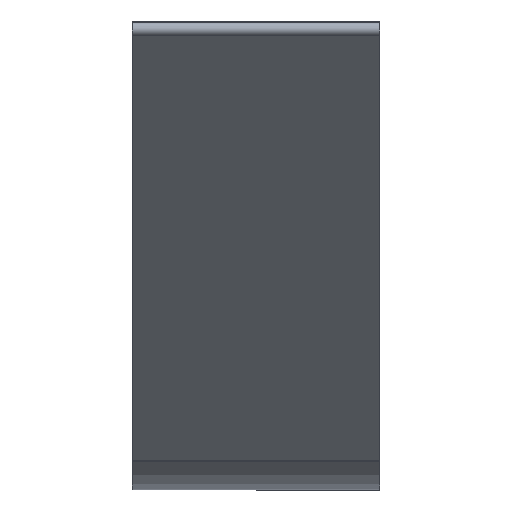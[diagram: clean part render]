
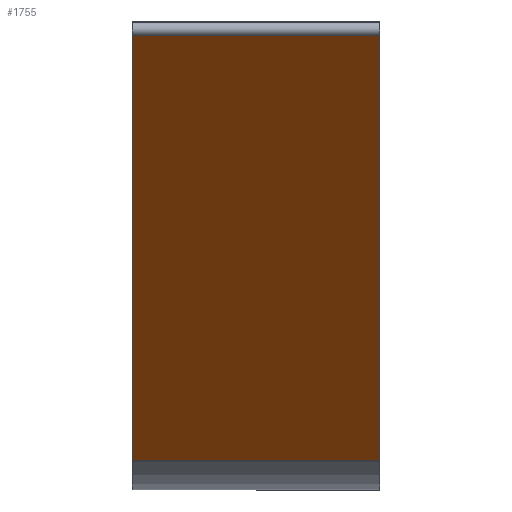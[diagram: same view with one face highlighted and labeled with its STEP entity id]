
A CAD part, front view. The second image highlights one B-rep face of the part: STEP entity #1755.
In plain terms, the highlighted planar face has unit normal (0, -0.454, -0.891).
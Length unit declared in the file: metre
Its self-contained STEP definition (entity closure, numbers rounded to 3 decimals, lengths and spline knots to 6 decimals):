
#16=PLANE('',#1874);
#293=ORIENTED_EDGE('',*,*,#750,.T.);
#294=ORIENTED_EDGE('',*,*,#798,.T.);
#295=ORIENTED_EDGE('',*,*,#627,.F.);
#296=ORIENTED_EDGE('',*,*,#797,.T.);
#627=EDGE_CURVE('',#882,#883,#1052,.T.);
#750=EDGE_CURVE('',#1001,#1004,#1161,.T.);
#797=EDGE_CURVE('',#882,#1001,#1207,.T.);
#798=EDGE_CURVE('',#1004,#883,#1208,.F.);
#882=VERTEX_POINT('',#2423);
#883=VERTEX_POINT('',#2425);
#1001=VERTEX_POINT('',#2663);
#1004=VERTEX_POINT('',#2669);
#1052=LINE('',#2424,#1290);
#1161=LINE('',#2670,#1399);
#1207=LINE('',#2763,#1445);
#1208=LINE('',#2765,#1446);
#1290=VECTOR('',#1972,1.);
#1399=VECTOR('',#2111,1.);
#1445=VECTOR('',#2163,1.);
#1446=VECTOR('',#2166,1.);
#1548=EDGE_LOOP('',(#293,#294,#295,#296));
#1656=FACE_BOUND('',#1548,.T.);
#1755=ADVANCED_FACE('',(#1656),#16,.F.);
#1874=AXIS2_PLACEMENT_3D('',#2764,#2164,#2165);
#1972=DIRECTION('',(0.,-0.891,0.454));
#2111=DIRECTION('',(0.,-0.891,0.454));
#2163=DIRECTION('',(1.,0.,0.));
#2164=DIRECTION('',(0.,0.454,0.891));
#2165=DIRECTION('',(0.,0.891,-0.454));
#2166=DIRECTION('',(1.,0.,0.));
#2423=CARTESIAN_POINT('',(-0.016226,-0.094359,0.022882));
#2424=CARTESIAN_POINT('',(-0.016226,-0.094359,0.022882));
#2425=CARTESIAN_POINT('',(-0.016226,-0.151677,0.05208));
#2663=CARTESIAN_POINT('',(0.000774,-0.094359,0.022882));
#2669=CARTESIAN_POINT('',(0.000774,-0.151677,0.05208));
#2670=CARTESIAN_POINT('',(0.000774,-0.094359,0.022882));
#2763=CARTESIAN_POINT('',(-0.016226,-0.094359,0.022882));
#2764=CARTESIAN_POINT('',(-0.016226,-0.094359,0.022882));
#2765=CARTESIAN_POINT('',(-0.016226,-0.151677,0.05208));
